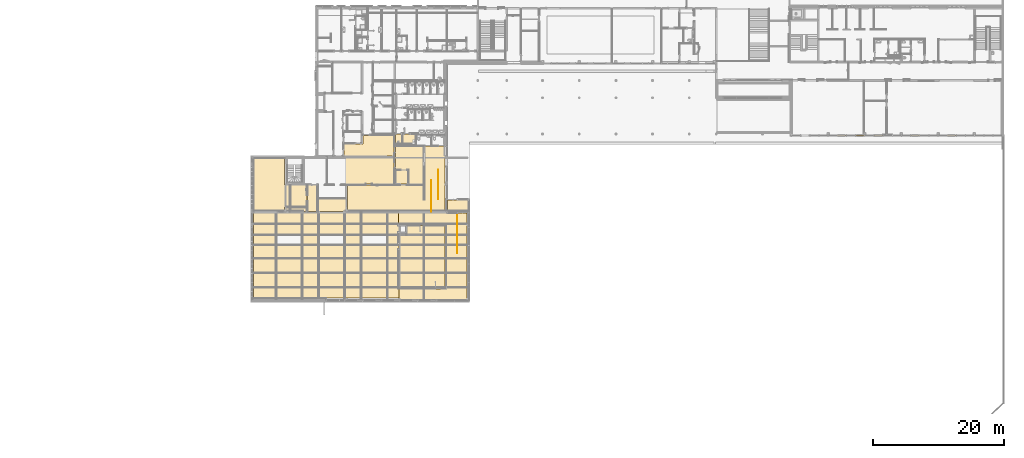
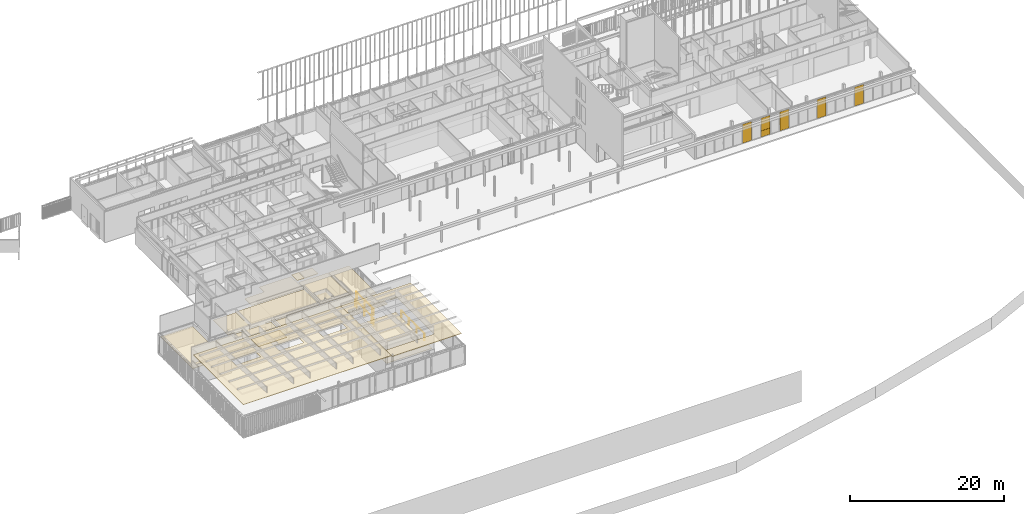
# One storey, part 230 of 240: 14 coverings, 5 windows, 3 railings, 1 element without a shape of its own.
"""IFC2X3 building model written with IfcOpenShell, lengths in centimetres."""

from ifc_helpers import new_model, entity, si_unit, converted_unit, derived_unit, direction, frame, frame_2d, origin, origin_2d_with_axis, place, context, subcontext, project, spatial, polyline, rectangle, outline, extrude, faceted_brep, source, transform, mapped, material, material_list, layer, layer_set, layer_usage, type_object, type_shapes, element, aggregate, save


model = new_model("IFC2X3")

# Units and contexts
model_context = context("Model", 3, precision=0.001, world=origin(), true_north=direction((6.12303176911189e-17, 1.0)))
body_context = subcontext(model_context, "Body", "Model", "MODEL_VIEW")
ifc_project = project(units=[si_unit("LENGTHUNIT", "METRE", prefix="CENTI"), si_unit("AREAUNIT", "SQUARE_METRE"), si_unit("VOLUMEUNIT", "CUBIC_METRE"), converted_unit("PLANEANGLEUNIT", "DEGREE", entity("IfcRatioMeasure", 0.0174532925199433), si_unit("PLANEANGLEUNIT", "RADIAN"), dimensions=[0, 0, 0, 0, 0, 0, 0]), si_unit("MASSUNIT", "GRAM", prefix="KILO"), derived_unit("MASSDENSITYUNIT", [(si_unit("MASSUNIT", "GRAM", prefix="KILO"), 1), (si_unit("LENGTHUNIT", "METRE"), -3)]), si_unit("TIMEUNIT", "SECOND"), si_unit("FREQUENCYUNIT", "HERTZ"), si_unit("THERMODYNAMICTEMPERATUREUNIT", "DEGREE_CELSIUS"), derived_unit("THERMALTRANSMITTANCEUNIT", [(si_unit("MASSUNIT", "GRAM", prefix="KILO"), 1), (si_unit("THERMODYNAMICTEMPERATUREUNIT", "KELVIN"), -1), (si_unit("TIMEUNIT", "SECOND"), -3)]), derived_unit("VOLUMETRICFLOWRATEUNIT", [(si_unit("LENGTHUNIT", "METRE"), 3), (si_unit("TIMEUNIT", "SECOND"), -1)]), si_unit("ELECTRICCURRENTUNIT", "AMPERE"), si_unit("ELECTRICVOLTAGEUNIT", "VOLT"), si_unit("POWERUNIT", "WATT"), si_unit("FORCEUNIT", "NEWTON", prefix="KILO"), si_unit("ILLUMINANCEUNIT", "LUX"), si_unit("LUMINOUSFLUXUNIT", "LUMEN"), si_unit("LUMINOUSINTENSITYUNIT", "CANDELA"), derived_unit("USERDEFINED", [(si_unit("MASSUNIT", "GRAM", prefix="KILO"), -1), (si_unit("LENGTHUNIT", "METRE"), -2), (si_unit("TIMEUNIT", "SECOND"), 3), (si_unit("LUMINOUSFLUXUNIT", "LUMEN"), 1)]), derived_unit("LINEARVELOCITYUNIT", [(si_unit("LENGTHUNIT", "METRE"), 1), (si_unit("TIMEUNIT", "SECOND"), -1)]), si_unit("PRESSUREUNIT", "PASCAL"), derived_unit("USERDEFINED", [(si_unit("LENGTHUNIT", "METRE"), -2), (si_unit("MASSUNIT", "GRAM", prefix="KILO"), 1), (si_unit("TIMEUNIT", "SECOND"), -2)])], contexts=[model_context])

# Site, building, storey
site_placement = place(None, frame((-2781.94577612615, 7442.24238424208, 0.0)))
site = spatial("IfcSite", under=ifc_project, at=site_placement, Name="Default", CompositionType="ELEMENT")
building_placement = place(site_placement, origin())
building = spatial("IfcBuilding", under=site, at=building_placement, CompositionType="ELEMENT")
storey_placement = place(building_placement, origin())
storey = spatial("IfcBuildingStorey", under=building, at=storey_placement, Name="N00 - COO", CompositionType="ELEMENT", Elevation=0.0)

# Curtain wall, windows
curtain_wall_type = type_object("IfcCurtainWallType", Name="Mur-rideau:07 - mur rideau trame 140 cm", PredefinedType="NOTDEFINED")
curtain_wall_placement = place(building_placement, origin())
curtain_wall = element("IfcCurtainWall", 1, at=curtain_wall_placement, inside=storey, type_object=curtain_wall_type, Name="Mur-rideau:07 - mur rideau trame 140 cm", ObjectType="Mur-rideau:07 - mur rideau trame 140 cm")
ifc_material_1 = material(Name="Verre")
ifc_material_2 = material(Name="Aluminium")
ifc_material_list_1 = material_list([ifc_material_1, ifc_material_2])
ifc_material_list_2 = material_list([ifc_material_1, ifc_material_2])
window_style = type_object("IfcWindowStyle", Name="Ouvrant vitré RDC façade sud.0005", ConstructionType="NOTDEFINED", OperationType="NOTDEFINED", ParameterTakesPrecedence=False, Sizeable=False, material=ifc_material_list_2)
shared_shape = source(origin(), body_context, "Body", "Brep", [
    faceted_brep([(59.7499999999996, -1.25, 297.26), (-59.75, -1.25, 297.26), (-59.75, -1.25, 99.3800000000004), (59.7499999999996, -1.25, 99.3800000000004), (59.7499999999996, 0.750000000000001, 99.3800000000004), (59.7499999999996, 0.750000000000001, 297.26), (-59.75, 0.750000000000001, 99.3800000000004), (-59.75, 0.750000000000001, 297.26)], [[[0, 1, 2, 3]], [[3, 4, 5, 0]], [[2, 6, 4, 3]], [[1, 7, 6, 2]], [[5, 4, 6, 7]], [[0, 5, 7, 1]]]),
    faceted_brep([(-63.7500000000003, 2.25, 95.3800000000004), (63.7499999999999, 2.25, 95.3800000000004), (63.7499999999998, -0.749999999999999, 95.3800000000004), (-63.7500000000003, -0.749999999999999, 95.3800000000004), (63.7499999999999, 2.25, 298.8825), (63.7499999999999, -0.749999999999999, 298.8825), (-63.7500000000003, -0.75, 298.8825), (62.2499999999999, -0.749999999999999, 297.3825), (62.2499999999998, -0.749999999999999, 96.8800000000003), (-62.2500000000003, -0.749999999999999, 96.8800000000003), (-62.2500000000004, -0.749999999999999, 297.3825), (-63.7500000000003, 2.25, 298.8825), (59.7499999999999, 2.25, 99.3800000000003), (59.7499999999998, 2.25, 294.8825), (-59.7500000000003, 2.25, 294.8825), (-59.7500000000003, 2.25, 99.3800000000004), (-59.7500000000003, -2.25, 99.3800000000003), (59.7499999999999, -2.25, 99.3800000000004), (59.7499999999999, -2.25, 294.8825), (-59.7500000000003, -2.25, 294.8825), (62.2499999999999, -2.25, 96.8800000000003), (62.2499999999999, -2.25, 297.3825), (-62.2500000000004, -2.25, 297.3825), (-62.2500000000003, -2.25, 96.8800000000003)], [[[0, 1, 2, 3]], [[1, 4, 5, 2]], [[2, 5, 6, 3], [7, 8, 9, 10]], [[4, 1, 0, 11], [12, 13, 14, 15]], [[16, 17, 12, 15]], [[17, 18, 13, 12]], [[18, 17, 16, 19], [20, 21, 22, 23]], [[9, 8, 20, 23]], [[8, 7, 21, 20]], [[11, 0, 3, 6]], [[19, 16, 15, 14]], [[10, 9, 23, 22]], [[4, 11, 6, 5]], [[18, 19, 14, 13]], [[7, 10, 22, 21]]], outer=[[True], [True], [True, False], [True, False], [True], [True], [False, True], [True], [True], [True], [True], [True], [True], [True], [True]]),
    faceted_brep([(-66.7500000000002, 2.25, 92.3800000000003), (66.7499999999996, 2.25, 92.3800000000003), (66.7499999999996, -2.25, 92.3800000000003), (-66.7500000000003, -2.25, 92.3800000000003), (66.7499999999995, 2.25, 301.8825), (66.7499999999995, -2.25, 301.8825), (-66.7500000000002, -2.25, 301.8825), (62.2499999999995, -2.25, 297.3825), (62.2499999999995, -2.25, 96.8800000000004), (-62.2500000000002, -2.25, 96.8800000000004), (-62.2500000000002, -2.25, 297.3825), (-66.7500000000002, 2.25, 301.8825), (63.7499999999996, 2.25, 95.3800000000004), (63.7499999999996, 2.25, 298.8825), (-63.7500000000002, 2.25, 298.8825), (-63.7500000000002, 2.25, 95.3800000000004), (-63.7500000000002, -0.749999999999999, 95.3800000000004), (63.7499999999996, -0.749999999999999, 95.3800000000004), (63.7499999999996, -0.749999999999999, 298.8825), (-63.7500000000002, -0.749999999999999, 298.8825), (62.2499999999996, -0.749999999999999, 96.8800000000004), (62.2499999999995, -0.749999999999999, 297.3825), (-62.2500000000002, -0.749999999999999, 297.3825), (-62.2500000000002, -0.749999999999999, 96.8800000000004)], [[[0, 1, 2, 3]], [[1, 4, 5, 2]], [[2, 5, 6, 3], [7, 8, 9, 10]], [[4, 1, 0, 11], [12, 13, 14, 15]], [[16, 17, 12, 15]], [[17, 18, 13, 12]], [[18, 17, 16, 19], [20, 21, 22, 23]], [[9, 8, 20, 23]], [[8, 7, 21, 20]], [[11, 0, 3, 6]], [[19, 16, 15, 14]], [[10, 9, 23, 22]], [[4, 11, 6, 5]], [[18, 19, 14, 13]], [[7, 10, 22, 21]]]),
    faceted_brep([(-66.7500000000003, -2.25, 0.0), (66.7499999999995, -2.25, 0.0), (66.7499999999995, -2.25, 92.3800000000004), (-66.7500000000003, -2.25, 92.3800000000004), (-66.7500000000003, -0.249999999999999, 0.0), (-66.7500000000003, -0.249999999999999, 92.3800000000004), (66.7499999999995, -0.249999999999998, 92.3800000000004), (66.7499999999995, -0.249999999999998, 0.0)], [[[0, 1, 2, 3]], [[4, 5, 6, 7]], [[3, 5, 4, 0]], [[2, 6, 5, 3]], [[1, 7, 6, 2]], [[0, 4, 7, 1]]]),
])
type_shapes(window_style, [shared_shape])
window_1_placement = place(curtain_wall_placement, frame((-2860.299882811, -3046.51349958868, 4.11874999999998)))
window_1 = element("IfcWindow", 2, at=window_1_placement, type_object=window_style, material=ifc_material_list_1, Name="Ouvrant vitré RDC façade sud.0005:Ouvrant vitré RDC façade sud.0005", ObjectType="Ouvrant vitré RDC façade sud.0005:Ouvrant vitré RDC façade sud.0005", OverallHeight=301.8825, OverallWidth=138.2625, context=body_context, shape_type="MappedRepresentation", body=[
    mapped(shared_shape, transform((0.0, 0.0, 0.0), scale=1.0)),
])
ifc_material_list_3 = material_list([ifc_material_1, ifc_material_2])
window_2_placement = place(curtain_wall_placement, frame((-2580.299882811, -3046.51349958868, 4.11874999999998)))
window_2 = element("IfcWindow", 3, at=window_2_placement, type_object=window_style, material=ifc_material_list_3, Name="Ouvrant vitré RDC façade sud.0005:Ouvrant vitré RDC façade sud.0005", ObjectType="Ouvrant vitré RDC façade sud.0005:Ouvrant vitré RDC façade sud.0005", OverallHeight=301.8825, OverallWidth=138.2625, context=body_context, shape_type="MappedRepresentation", body=[
    mapped(shared_shape, transform((0.0, 0.0, 0.0), scale=1.0)),
])
ifc_material_list_4 = material_list([ifc_material_1, ifc_material_2])
window_3_placement = place(curtain_wall_placement, frame((-2300.299882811, -3046.51349958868, 4.11874999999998)))
window_3 = element("IfcWindow", 4, at=window_3_placement, type_object=window_style, material=ifc_material_list_4, Name="Ouvrant vitré RDC façade sud.0005:Ouvrant vitré RDC façade sud.0005", ObjectType="Ouvrant vitré RDC façade sud.0005:Ouvrant vitré RDC façade sud.0005", OverallHeight=301.8825, OverallWidth=138.2625, context=body_context, shape_type="MappedRepresentation", body=[
    mapped(shared_shape, transform((0.0, 0.0, 0.0), scale=1.0)),
])
ifc_material_list_5 = material_list([ifc_material_1, ifc_material_2])
window_4_placement = place(curtain_wall_placement, frame((-1740.299882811, -3046.51349958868, 4.11874999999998)))
window_4 = element("IfcWindow", 5, at=window_4_placement, type_object=window_style, material=ifc_material_list_5, Name="Ouvrant vitré RDC façade sud.0005:Ouvrant vitré RDC façade sud.0005", ObjectType="Ouvrant vitré RDC façade sud.0005:Ouvrant vitré RDC façade sud.0005", OverallHeight=301.8825, OverallWidth=138.2625, context=body_context, shape_type="MappedRepresentation", body=[
    mapped(shared_shape, transform((0.0, 0.0, 0.0), scale=1.0)),
])
ifc_material_list_6 = material_list([ifc_material_1, ifc_material_2])
window_5_placement = place(curtain_wall_placement, frame((-1180.299882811, -3046.51349958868, 4.11874999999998)))
window_5 = element("IfcWindow", 6, at=window_5_placement, type_object=window_style, material=ifc_material_list_6, Name="Ouvrant vitré RDC façade sud.0005:Ouvrant vitré RDC façade sud.0005", ObjectType="Ouvrant vitré RDC façade sud.0005:Ouvrant vitré RDC façade sud.0005", OverallHeight=301.8825, OverallWidth=138.2625, context=body_context, shape_type="MappedRepresentation", body=[
    mapped(shared_shape, transform((0.0, 0.0, 0.0), scale=1.0)),
])
aggregate(curtain_wall, [window_1, window_2, window_3, window_4, window_5])

# Space
space_1_placement = place(building_placement, origin())
space_1 = spatial("IfcSpace", under=storey, at=space_1_placement, Name="B-20", CompositionType="ELEMENT", InteriorOrExteriorSpace="INTERNAL")

# Coverings
ifc_material_3 = material(Name="00 - VIDE D'AIR")
ifc_layer_1 = layer(ifc_material_3, 5.7)
ifc_material_4 = material(Name="01 - Enduit/Plâtre - faux plafonds")
ifc_layer_2 = layer(ifc_material_4, 1.3)
ifc_layer_set = layer_set([ifc_layer_1, ifc_layer_2], Name="Plafond composé:11-Plafond 1BA13")
ifc_layer_usage_1 = layer_usage(ifc_layer_set, "AXIS3", "POSITIVE", 0.0)
covering_type_1 = type_object("IfcCoveringType", Name="Plafond composé:11-Plafond 1BA13", PredefinedType="CEILING")
covering_1_placement = place(space_1_placement, origin())
element("IfcCovering", 7, at=covering_1_placement, inside=space_1, type_object=covering_type_1, material=ifc_layer_usage_1, Name="Plafond composé:11-Plafond 1BA13", ObjectType="Plafond composé:11-Plafond 1BA13", PredefinedType="CEILING", context=body_context, shape_type="SweptSolid", body=[
    extrude(rectangle(XDim=196.140774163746, YDim=150.0, at=frame_2d((-8.66862137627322e-13, 2.1316282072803e-13), x_axis=(1.0, 0.0))), frame((-9463.92960989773, -3095.07903364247, 260.0)), (0.0, 0.0, 1.0), 6.99999999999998),
])
ifc_layer_usage_2 = layer_usage(ifc_layer_set, "AXIS3", "POSITIVE", 0.0)
covering_type_2 = type_object("IfcCoveringType", Name="Plafond composé:11-Plafond 1BA13", PredefinedType="CEILING")
covering_2_placement = place(space_1_placement, origin())
element("IfcCovering", 8, at=covering_2_placement, inside=space_1, type_object=covering_type_2, material=ifc_layer_usage_2, Name="Plafond composé:11-Plafond 1BA13", ObjectType="Plafond composé:11-Plafond 1BA13", PredefinedType="CEILING", context=body_context, shape_type="SweptSolid", body=[
    extrude(rectangle(XDim=150.0, YDim=105.0, at=frame_2d((-2.1316282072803e-13, 0.0), x_axis=(1.0, 0.0))), frame((-9624.4999969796, -3095.07903364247, 260.0), z_axis=(0.0, 0.0, 1.0), x_axis=(0.0, 1.0, 0.0)), (0.0, 0.0, 1.0), 6.99999999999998),
])

# Space
space_2_placement = place(building_placement, origin())
space_2 = spatial("IfcSpace", under=storey, at=space_2_placement, Name="D-23 / D-23", CompositionType="ELEMENT", InteriorOrExteriorSpace="INTERNAL")

# Covering
ifc_layer_usage_3 = layer_usage(ifc_layer_set, "AXIS3", "POSITIVE", 0.0)
covering_type_3 = type_object("IfcCoveringType", Name="Plafond composé:11-Plafond 1BA13", PredefinedType="CEILING")
covering_3_placement = place(space_2_placement, origin())
element("IfcCovering", 9, at=covering_3_placement, inside=space_2, type_object=covering_type_3, material=ifc_layer_usage_3, Name="Plafond composé:11-Plafond 1BA13", ObjectType="Plafond composé:11-Plafond 1BA13", PredefinedType="CEILING", context=body_context, shape_type="SweptSolid", body=[
    extrude(outline(polyline([(-165.147590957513, -415.149201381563), (147.852409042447, -415.149201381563), (147.852409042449, 62.6853520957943), (17.2951819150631, 62.6853520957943), (17.295181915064, 352.463849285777), (-165.14759095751, 352.463849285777), (-165.147590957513, -415.149201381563)])), frame((-10112.1491983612, -3187.37421555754, 250.0), z_axis=(0.0, 0.0, 1.0), x_axis=(0.0, 1.0, 0.0)), (0.0, 0.0, 1.0), 6.99999999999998),
])

# Space
space_3_placement = place(building_placement, origin())
space_3 = spatial("IfcSpace", under=storey, at=space_3_placement, Name="F-1", CompositionType="ELEMENT", InteriorOrExteriorSpace="INTERNAL")

# Covering
ifc_layer_usage_4 = layer_usage(ifc_layer_set, "AXIS3", "POSITIVE", 0.0)
covering_type_4 = type_object("IfcCoveringType", Name="Plafond composé:11-Plafond 1BA13", PredefinedType="CEILING")
covering_4_placement = place(space_3_placement, origin())
element("IfcCovering", 10, at=covering_4_placement, inside=space_3, type_object=covering_type_4, material=ifc_layer_usage_4, Name="Plafond composé:11-Plafond 1BA13", ObjectType="Plafond composé:11-Plafond 1BA13", PredefinedType="CEILING", context=body_context, shape_type="SweptSolid", body=[
    extrude(rectangle(XDim=404.780612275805, YDim=149.932183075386, at=frame_2d((0.0, 8.66862137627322e-13), x_axis=(1.0, 0.0))), frame((-10942.9660885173, -4003.10996728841, 250.0), z_axis=(0.0, 0.0, 1.0), x_axis=(0.0, 1.0, 0.0)), (0.0, 0.0, 1.0), 6.99999999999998),
])

# Space
space_4_placement = place(building_placement, origin())
space_4 = spatial("IfcSpace", under=storey, at=space_4_placement, Name="D-31", CompositionType="ELEMENT", InteriorOrExteriorSpace="INTERNAL")

# Coverings
ifc_layer_usage_5 = layer_usage(ifc_layer_set, "AXIS3", "POSITIVE", 0.0)
covering_type_5 = type_object("IfcCoveringType", Name="Plafond composé:11-Plafond 1BA13", PredefinedType="CEILING")
covering_5_placement = place(space_4_placement, origin())
element("IfcCovering", 11, at=covering_5_placement, inside=space_4, type_object=covering_type_5, material=ifc_layer_usage_5, Name="Plafond composé:11-Plafond 1BA13", ObjectType="Plafond composé:11-Plafond 1BA13", PredefinedType="CEILING", context=body_context, shape_type="SweptSolid", body=[
    extrude(rectangle(XDim=195.390306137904, YDim=424.035258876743, at=origin_2d_with_axis()), frame((-10643.9823675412, -4107.80512035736, 250.0), z_axis=(0.0, 0.0, 1.0), x_axis=(0.0, 1.0, 0.0)), (0.0, 0.0, 1.0), 6.99999999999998),
])
ifc_layer_usage_6 = layer_usage(ifc_layer_set, "AXIS3", "POSITIVE", 0.0)
covering_type_6 = type_object("IfcCoveringType", Name="Plafond composé:11-Plafond 1BA13", PredefinedType="CEILING")
covering_6_placement = place(building_placement, origin())
element("IfcCovering", 12, at=covering_6_placement, inside=storey, type_object=covering_type_6, material=ifc_layer_usage_6, Name="Plafond composé:11-Plafond 1BA13", ObjectType="Plafond composé:11-Plafond 1BA13", PredefinedType="CEILING", context=body_context, shape_type="SweptSolid", body=[
    extrude(rectangle(XDim=575.640627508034, YDim=435.067816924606, at=frame_2d((-2.27373675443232e-13, 8.66862137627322e-13), x_axis=(1.0, 0.0))), frame((-9459.4660885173, -3492.89934739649, 250.0), z_axis=(0.0, 0.0, 1.0), x_axis=(0.0, 1.0, 0.0)), (0.0, 0.0, 1.0), 6.99999999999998),
])
ifc_layer_usage_7 = layer_usage(ifc_layer_set, "AXIS3", "POSITIVE", 0.0)
covering_type_7 = type_object("IfcCoveringType", Name="Plafond composé:11-Plafond 1BA13", PredefinedType="CEILING")
covering_7_placement = place(building_placement, origin())
element("IfcCovering", 13, at=covering_7_placement, inside=storey, type_object=covering_type_7, material=ifc_layer_usage_7, Name="Plafond composé:11-Plafond 1BA13", ObjectType="Plafond composé:11-Plafond 1BA13", PredefinedType="CEILING", context=body_context, shape_type="SweptSolid", body=[
    extrude(outline(polyline([(-549.235590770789, -648.06055270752), (-239.235590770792, -648.06055270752), (-239.235590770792, 171.939447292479), (-229.235590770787, 171.939447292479), (-229.235590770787, -52.419925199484), (940.796967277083, -52.419925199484), (940.796967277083, 352.360687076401), (153.819610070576, 352.360687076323), (-549.235590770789, 352.360687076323), (-549.235590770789, -648.06055270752)])), frame((-9471.16777082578, -3853.13958634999, 250.0), z_axis=(0.0, 0.0, 1.0), x_axis=(-1.0, 0.0, 0.0)), (0.0, 0.0, 1.0), 6.99999999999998),
])
ifc_layer_usage_8 = layer_usage(ifc_layer_set, "AXIS3", "POSITIVE", 0.0)
covering_type_8 = type_object("IfcCoveringType", Name="Plafond composé:11-Plafond 1BA13", PredefinedType="CEILING")
covering_8_placement = place(building_placement, origin())
element("IfcCovering", 14, at=covering_8_placement, inside=storey, type_object=covering_type_8, material=ifc_layer_usage_8, Name="Plafond composé:11-Plafond 1BA13", ObjectType="Plafond composé:11-Plafond 1BA13", PredefinedType="CEILING", context=body_context, shape_type="SweptSolid", body=[
    extrude(outline(polyline([(-911.355944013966, -317.959947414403), (108.644055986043, -317.959947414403), (108.644055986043, -87.9599474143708), (120.644055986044, -87.9599474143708), (120.644055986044, -302.659947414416), (458.526866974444, -302.659947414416), (458.526866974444, 90.2379072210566), (248.644055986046, 90.2379072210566), (248.644055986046, 110.237907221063), (247.644055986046, 110.237907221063), (247.644055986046, 307.628213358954), (-176.391202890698, 307.628213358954), (-176.391202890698, 110.237907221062), (-96.3559440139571, 110.237907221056), (-96.3559440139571, 90.2379072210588), (-911.355944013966, 90.2379072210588), (-911.355944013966, -317.959947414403)]), holes=[polyline([(108.644055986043, 12.0400525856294), (108.644055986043, 90.2379072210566), (3.64405598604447, 90.2379072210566), (3.64405598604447, 110.237907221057), (148.644055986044, 110.237907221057), (148.644055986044, 90.2379072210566), (120.644055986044, 90.2379072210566), (120.644055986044, 12.0400525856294), (108.644055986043, 12.0400525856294)])]), frame((-10608.3559409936, -3690.48175392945, 250.0), z_axis=(0.0, 0.0, 1.0), x_axis=(-1.0, 0.0, 0.0)), (0.0, 0.0, 1.0), 6.99999999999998),
])

# Space
space_5_placement = place(building_placement, origin())
space_5 = spatial("IfcSpace", under=storey, at=space_5_placement, Name="D-7", CompositionType="ELEMENT", InteriorOrExteriorSpace="INTERNAL")

# Coverings
ifc_layer_usage_9 = layer_usage(ifc_layer_set, "AXIS3", "POSITIVE", 0.0)
covering_type_9 = type_object("IfcCoveringType", Name="Plafond composé:11-Plafond 1BA13", PredefinedType="CEILING")
covering_9_placement = place(space_5_placement, origin())
element("IfcCovering", 15, at=covering_9_placement, inside=space_5, type_object=covering_type_9, material=ifc_layer_usage_9, Name="Plafond composé:11-Plafond 1BA13", ObjectType="Plafond composé:11-Plafond 1BA13", PredefinedType="CEILING", context=body_context, shape_type="SweptSolid", body=[
    extrude(outline(polyline([(-376.900824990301, -328.614769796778), (98.9669416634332, -328.614769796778), (98.9669416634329, -256.61476979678), (178.966941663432, -256.614769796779), (178.966941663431, 76.1658424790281), (98.9669416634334, 76.1658424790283), (98.9669416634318, 509.063697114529), (-376.900824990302, 509.063697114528), (-376.900824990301, -328.614769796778)])), frame((-11466.4497496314, -3876.88550362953, 250.0)), (0.0, 0.0, 1.0), 6.99999999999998),
])
ifc_layer_usage_10 = layer_usage(ifc_layer_set, "AXIS3", "POSITIVE", 0.0)
covering_type_10 = type_object("IfcCoveringType", Name="Plafond composé:11-Plafond 1BA13", PredefinedType="CEILING")
covering_10_placement = place(building_placement, origin())
element("IfcCovering", 16, at=covering_10_placement, inside=storey, type_object=covering_type_10, material=ifc_layer_usage_10, Name="Plafond composé:11-Plafond 1BA13", ObjectType="Plafond composé:11-Plafond 1BA13", PredefinedType="CEILING", context=body_context, shape_type="SweptSolid", body=[
    extrude(rectangle(XDim=245.550627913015, YDim=332.780612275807, at=frame_2d((8.66862137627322e-13, 0.0), x_axis=(1.0, 0.0))), frame((-11152.7074940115, -3967.10996728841, 250.0)), (0.0, 0.0, 1.0), 6.99999999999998),
    extrude(rectangle(XDim=60.0000000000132, YDim=317.550627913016, at=frame_2d((-1.29851684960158e-12, -8.66862137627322e-13), x_axis=(1.0, 0.0))), frame((-11188.7074940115, -4175.50027342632, 250.0), z_axis=(0.0, 0.0, 1.0), x_axis=(0.0, 1.0, 0.0)), (0.0, 0.0, 1.0), 6.99999999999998),
])

# Space
space_6_placement = place(building_placement, origin())
space_6 = spatial("IfcSpace", under=storey, at=space_6_placement, Name="D-29", CompositionType="ELEMENT", InteriorOrExteriorSpace="INTERNAL")

# Coverings
ifc_layer_usage_11 = layer_usage(ifc_layer_set, "AXIS3", "POSITIVE", 0.0)
covering_type_11 = type_object("IfcCoveringType", Name="Plafond composé:11-Plafond 1BA13", PredefinedType="CEILING")
covering_11_placement = place(space_6_placement, origin())
element("IfcCovering", 17, at=covering_11_placement, inside=space_6, type_object=covering_type_11, material=ifc_layer_usage_11, Name="Plafond composé:11-Plafond 1BA13", ObjectType="Plafond composé:11-Plafond 1BA13", PredefinedType="CEILING", context=body_context, shape_type="SweptSolid", body=[
    extrude(outline(polyline([(-420.333333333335, -365.0), (157.666666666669, -365.0), (157.666666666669, -215.0), (262.666666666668, -215.0), (262.666666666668, 580.0), (-420.333333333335, 580.0), (-420.333333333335, -365.0)])), frame((-9342.32071422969, -4783.50027342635, 250.0), z_axis=(0.0, 0.0, 1.0), x_axis=(-1.0, 0.0, 0.0)), (0.0, 0.0, 1.0), 6.99999999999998),
])
ifc_layer_usage_12 = layer_usage(ifc_layer_set, "AXIS3", "POSITIVE", 0.0)
covering_type_12 = type_object("IfcCoveringType", Name="Plafond composé:11-Plafond 1BA13", PredefinedType="CEILING")
covering_12_placement = place(building_placement, origin())
element("IfcCovering", 18, at=covering_12_placement, inside=storey, type_object=covering_type_12, material=ifc_layer_usage_12, Name="Plafond composé:11-Plafond 1BA13", ObjectType="Plafond composé:11-Plafond 1BA13", PredefinedType="CEILING", context=body_context, shape_type="SweptSolid", body=[
    extrude(outline(polyline([(-1110.6815968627, -650.500730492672), (1110.6815968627, -650.500730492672), (1110.6815968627, 650.500730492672), (-1110.6815968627, 650.500730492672), (-1110.6815968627, -650.500730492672)]), holes=[polyline([(746.681596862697, -299.524139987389), (378.6815968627, -299.524139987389), (378.6815968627, -175.520730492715), (746.681596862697, -175.520730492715), (746.681596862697, -299.524139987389)]), polyline([(96.681596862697, -299.524139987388), (-271.318403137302, -299.524139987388), (-271.318403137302, -175.520730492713), (96.681596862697, -175.520730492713), (96.681596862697, -299.524139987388)]), polyline([(-553.318403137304, -299.524139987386), (-921.318403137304, -299.524139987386), (-921.318403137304, -175.520730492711), (-553.318403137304, -175.520730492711), (-553.318403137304, -299.524139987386)])]), frame((-10735.6689777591, -4876.00100391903, 480.0), z_axis=(0.0, 0.0, 1.0), x_axis=(-1.0, 0.0, 0.0)), (0.0, 0.0, 1.0), 6.99999999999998),
])

# Space
space_7_placement = place(building_placement, origin())
space_7 = spatial("IfcSpace", under=storey, at=space_7_placement, Name="F-1", CompositionType="ELEMENT", InteriorOrExteriorSpace="INTERNAL")

# Covering
ifc_layer_usage_13 = layer_usage(ifc_layer_set, "AXIS3", "POSITIVE", 0.0)
covering_type_13 = type_object("IfcCoveringType", Name="Plafond composé:11-Plafond 1BA13", PredefinedType="CEILING")
covering_13_placement = place(space_7_placement, origin())
element("IfcCovering", 19, at=covering_13_placement, inside=space_7, type_object=covering_type_13, material=ifc_layer_usage_13, Name="Plafond composé:11-Plafond 1BA13", ObjectType="Plafond composé:11-Plafond 1BA13", PredefinedType="CEILING", context=body_context, shape_type="SweptSolid", body=[
    extrude(rectangle(XDim=312.644799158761, YDim=190.5, at=frame_2d((8.66862137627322e-13, 0.0), x_axis=(1.0, 0.0))), frame((-8725.30978047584, -4120.25027342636, 306.0), z_axis=(0.0, 0.0, 1.0), x_axis=(-1.0, 0.0, 0.0)), (0.0, 0.0, 1.0), 6.99999999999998),
])

# Space
space_8_placement = place(building_placement, origin())
space_8 = spatial("IfcSpace", under=storey, at=space_8_placement, Name="D-30", CompositionType="ELEMENT", InteriorOrExteriorSpace="INTERNAL")

# Covering
ifc_layer_usage_14 = layer_usage(ifc_layer_set, "AXIS3", "POSITIVE", 0.0)
covering_type_14 = type_object("IfcCoveringType", Name="Plafond composé:11-Plafond 1BA13", PredefinedType="CEILING")
covering_14_placement = place(space_8_placement, origin())
element("IfcCovering", 20, at=covering_14_placement, inside=space_8, type_object=covering_type_14, material=ifc_layer_usage_14, Name="Plafond composé:11-Plafond 1BA13", ObjectType="Plafond composé:11-Plafond 1BA13", PredefinedType="CEILING", context=body_context, shape_type="SweptSolid", body=[
    extrude(outline(polyline([(-790.200584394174, -463.210000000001), (-617.700584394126, -463.210000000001), (-617.700584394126, 267.790000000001), (367.299415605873, 267.790000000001), (367.299415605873, -455.210000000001), (510.300876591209, -455.210000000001), (530.300876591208, -455.210000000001), (530.300876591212, 585.490000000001), (510.300876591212, 585.490000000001), (-790.200584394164, 585.490000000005), (-790.200584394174, -463.210000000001)])), frame((-9169.77738089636, -5016.20085782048, 480.0), z_axis=(0.0, 0.0, 1.0), x_axis=(0.0, -1.0, 0.0)), (0.0, 0.0, 1.0), 6.99999999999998),
])

# Railings
ifc_material_5 = material(Name="Métal - Acier inoxydable, poli")
railing_1_placement = place(storey_placement, origin())
element("IfcRailing", 21, at=railing_1_placement, inside=storey, material=ifc_material_5, Name="Garde-corps:Garde corps accès cuisine", ObjectType="Garde-corps:Garde corps accès cuisine", PredefinedType="NOTDEFINED", context=body_context, shape_type="SweptSolid", body=[
    extrude(rectangle(XDim=5.0000000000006, YDim=1.19999999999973, at=frame_2d((-8.66418048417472e-13, 0.0), x_axis=(1.0, 0.0))), frame((-8731.48738089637, -4636.10027342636, 0.0), z_axis=(0.0, 0.0, 1.0), x_axis=(-1.0, 0.0, 0.0)), (0.0, 0.0, 1.0), 99.4999999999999),
    extrude(rectangle(XDim=5.0000000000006, YDim=1.19999999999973, at=frame_2d((8.66418048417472e-13, 0.0), x_axis=(1.0, 0.0))), frame((-8731.48738089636, -4436.10027342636, 0.0), z_axis=(0.0, 0.0, 1.0), x_axis=(-1.0, 0.0, 0.0)), (0.0, 0.0, 1.0), 99.4999999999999),
    extrude(rectangle(XDim=5.0000000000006, YDim=1.19999999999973, at=frame_2d((-8.66418048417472e-13, 0.0), x_axis=(1.0, 0.0))), frame((-8731.48738089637, -4836.10027342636, 0.0), z_axis=(0.0, 0.0, 1.0), x_axis=(-1.0, 0.0, 0.0)), (0.0, 0.0, 1.0), 99.4999999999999),
    extrude(rectangle(XDim=5.0000000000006, YDim=1.19999999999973, at=frame_2d((-8.66418048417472e-13, 0.0), x_axis=(1.0, 0.0))), frame((-8731.48738089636, -4236.10027342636, 0.0), z_axis=(0.0, 0.0, 1.0), x_axis=(-1.0, 0.0, 0.0)), (0.0, 0.0, 1.0), 99.4999999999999),
    extrude(rectangle(XDim=600.0, YDim=5.0000000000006, at=frame_2d((4.2632564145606e-13, -8.66418048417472e-13), x_axis=(1.0, 0.0))), frame((-8731.48738089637, -4536.10027342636, 99.5), z_axis=(0.0, 0.0, 1.0), x_axis=(0.0, -1.0, 0.0)), (0.0, 0.0, 1.0), 1.0),
])
railing_2_placement = place(storey_placement, origin())
element("IfcRailing", 22, at=railing_2_placement, inside=storey, material=ifc_material_5, Name="Garde-corps:Garde corps accès cuisine", ObjectType="Garde-corps:Garde corps accès cuisine", PredefinedType="NOTDEFINED", context=body_context, shape_type="SweptSolid", body=[
    extrude(rectangle(XDim=5.0000000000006, YDim=1.20000000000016, at=frame_2d((8.66418048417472e-13, -2.16604512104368e-13), x_axis=(1.0, 0.0))), frame((-9128.93218005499, -3764.78078088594, 0.0), z_axis=(0.0, 0.0, 1.0), x_axis=(-1.0, 0.0, 0.0)), (0.0, 0.0, 1.0), 99.4999999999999),
    extrude(rectangle(XDim=5.0000000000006, YDim=1.19999999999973, at=frame_2d((-8.66418048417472e-13, 0.0), x_axis=(1.0, 0.0))), frame((-9128.932180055, -4164.78078088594, 0.0), z_axis=(0.0, 0.0, 1.0), x_axis=(-1.0, 0.0, 0.0)), (0.0, 0.0, 1.0), 99.4999999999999),
    extrude(rectangle(XDim=5.0000000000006, YDim=1.19999999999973, at=frame_2d((8.66418048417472e-13, 0.0), x_axis=(1.0, 0.0))), frame((-9128.932180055, -3964.78078088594, 0.0), z_axis=(0.0, 0.0, 1.0), x_axis=(-1.0, 0.0, 0.0)), (0.0, 0.0, 1.0), 99.4999999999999),
    extrude(rectangle(XDim=5.0000000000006, YDim=1.20000000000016, at=frame_2d((8.66418048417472e-13, -2.16604512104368e-13), x_axis=(1.0, 0.0))), frame((-9128.93218005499, -3764.78078088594, 0.0), z_axis=(0.0, 0.0, 1.0), x_axis=(-1.0, 0.0, 0.0)), (0.0, 0.0, 1.0), 99.4999999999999),
    extrude(rectangle(XDim=5.0000000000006, YDim=1.19999999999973, at=frame_2d((-8.66418048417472e-13, 0.0), x_axis=(1.0, 0.0))), frame((-9128.932180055, -4205.50027342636, 0.0), z_axis=(0.0, 0.0, 1.0), x_axis=(-1.0, 0.0, 0.0)), (0.0, 0.0, 1.0), 99.4999999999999),
    extrude(rectangle(XDim=5.0000000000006, YDim=1.20000000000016, at=frame_2d((8.66418048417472e-13, -2.16604512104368e-13), x_axis=(1.0, 0.0))), frame((-9128.93218005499, -3724.06128834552, 0.0), z_axis=(0.0, 0.0, 1.0), x_axis=(-1.0, 0.0, 0.0)), (0.0, 0.0, 1.0), 99.4999999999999),
    extrude(rectangle(XDim=481.438985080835, YDim=5.0000000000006, at=frame_2d((2.1316282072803e-13, -1.73261405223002e-12), x_axis=(1.0, 0.0))), frame((-9128.932180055, -3964.78078088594, 99.5), z_axis=(0.0, 0.0, 1.0), x_axis=(0.0, -1.0, 0.0)), (0.0, 0.0, 1.0), 1.0),
])
railing_3_placement = place(storey_placement, origin())
element("IfcRailing", 23, at=railing_3_placement, inside=storey, material=ifc_material_5, Name="Garde-corps:Garde corps accès cuisine", ObjectType="Garde-corps:Garde corps accès cuisine", PredefinedType="NOTDEFINED", context=body_context, shape_type="SweptSolid", body=[
    extrude(rectangle(XDim=5.0000000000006, YDim=1.20000000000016, at=frame_2d((-8.66418048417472e-13, 2.16604512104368e-13), x_axis=(1.0, 0.0))), frame((-9023.93218005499, -3591.98965353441, 0.0), z_axis=(0.0, 0.0, 1.0), x_axis=(-1.0, 0.0, 0.0)), (0.0, 0.0, 1.0), 99.4999999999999),
    extrude(rectangle(XDim=5.0000000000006, YDim=1.19999999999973, at=frame_2d((8.66418048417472e-13, 0.0), x_axis=(1.0, 0.0))), frame((-9023.932180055, -3991.98965353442, 0.0), z_axis=(0.0, 0.0, 1.0), x_axis=(-1.0, 0.0, 0.0)), (0.0, 0.0, 1.0), 99.4999999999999),
    extrude(rectangle(XDim=5.0000000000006, YDim=1.20000000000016, at=frame_2d((-8.66418048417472e-13, 2.16604512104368e-13), x_axis=(1.0, 0.0))), frame((-9023.932180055, -3791.98965353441, 0.0), z_axis=(0.0, 0.0, 1.0), x_axis=(-1.0, 0.0, 0.0)), (0.0, 0.0, 1.0), 99.4999999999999),
    extrude(rectangle(XDim=5.0000000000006, YDim=1.20000000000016, at=frame_2d((-8.66418048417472e-13, 2.16604512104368e-13), x_axis=(1.0, 0.0))), frame((-9023.93218005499, -3591.98965353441, 0.0), z_axis=(0.0, 0.0, 1.0), x_axis=(-1.0, 0.0, 0.0)), (0.0, 0.0, 1.0), 99.4999999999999),
    extrude(rectangle(XDim=5.0000000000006, YDim=1.19999999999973, at=frame_2d((8.66418048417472e-13, 0.0), x_axis=(1.0, 0.0))), frame((-9023.932180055, -4015.07903364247, 0.0), z_axis=(0.0, 0.0, 1.0), x_axis=(-1.0, 0.0, 0.0)), (0.0, 0.0, 1.0), 99.4999999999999),
    extrude(rectangle(XDim=5.0000000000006, YDim=1.20000000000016, at=frame_2d((-8.66418048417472e-13, -2.16604512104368e-13), x_axis=(1.0, 0.0))), frame((-9023.93218005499, -3568.90027342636, 0.0), z_axis=(0.0, 0.0, 1.0), x_axis=(-1.0, 0.0, 0.0)), (0.0, 0.0, 1.0), 99.4999999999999),
    extrude(rectangle(XDim=446.178760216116, YDim=5.0000000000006, at=origin_2d_with_axis()), frame((-9023.932180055, -3791.98965353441, 99.5), z_axis=(0.0, 0.0, 1.0), x_axis=(0.0, -1.0, 0.0)), (0.0, 0.0, 1.0), 1.0),
])

save(model, "model.ifc")
